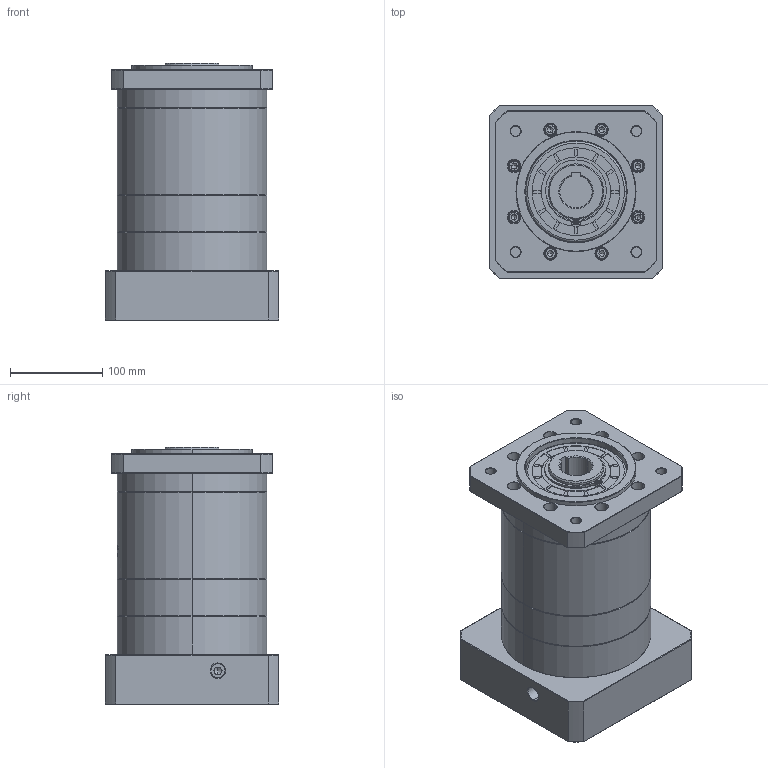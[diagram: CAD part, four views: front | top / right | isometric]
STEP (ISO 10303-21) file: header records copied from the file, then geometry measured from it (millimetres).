
FILE_DESCRIPTION (( 'STEP AP214' ), '1' );
FILE_NAME ('ZF160-K35-L3-38-180-215-M12.step', '2023-03-21T04:34:00', ( '' ), ( '' ), 'SwSTEP 2.0', 'SolidWorks 2016', '' );
FILE_SCHEMA (( 'AUTOMOTIVE_DESIGN' ));
Length unit declared in the file: millimetre
Products named in the file (1): ZF160-K35-L3-38-180-215-M12
Bounding box: 188 x 188 x 278.2 mm (x, y, z)
Volume: 5967594.5 mm3; surface area: 390691.1 mm2
Topology: 6 solids, 6 shells, 1563 faces, 4068 edges, 2608 vertices
Faces by surface type: plane 637, cylinder 373, cone 322, bspline 211, torus 20
Entity records: 86780 total; most frequent: CARTESIAN_POINT 33194, ORIENTED_EDGE 8080, DIRECTION 6923, EDGE_CURVE 4040, VERTEX_POINT 2608, AXIS2_PLACEMENT_3D 2401, LINE 2121, VECTOR 2121
